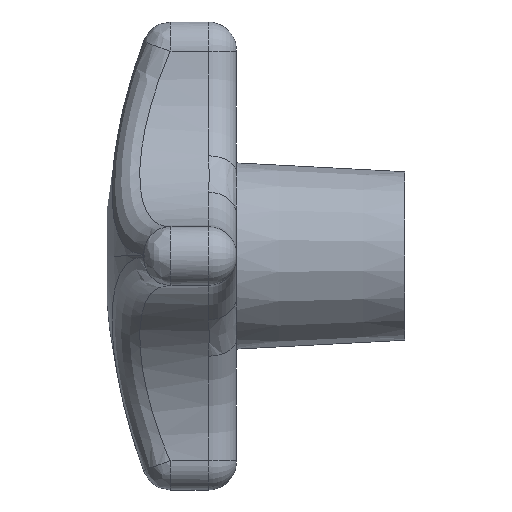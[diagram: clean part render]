
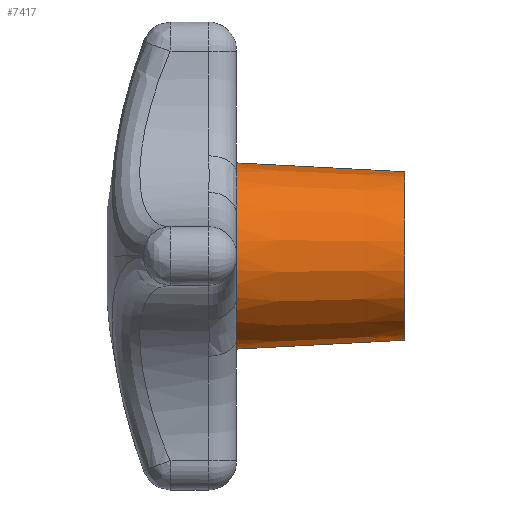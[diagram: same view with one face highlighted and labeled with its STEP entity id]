
A CAD part, left-side view. The second image highlights one B-rep face of the part: STEP entity #7417.
In plain terms, the highlighted conical face has half-angle 3 degrees and reference radius 9 mm.
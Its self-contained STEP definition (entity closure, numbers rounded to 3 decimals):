
#15 = VERTEX_POINT ( 'NONE', #245 ) ;
#245 = CARTESIAN_POINT ( 'NONE',  ( -8.912, 0., 4.41 ) ) ;
#486 = EDGE_CURVE ( 'NONE', #487, #6921, #944, .T. ) ;
#487 = VERTEX_POINT ( 'NONE', #939 ) ;
#493 = EDGE_CURVE ( 'NONE', #6637, #506, #932, .T. ) ;
#506 = VERTEX_POINT ( 'NONE', #983 ) ;
#928 = DIRECTION ( 'NONE',  ( 0., 0., 1. ) ) ;
#929 = DIRECTION ( 'NONE',  ( 0., 1., 0. ) ) ;
#930 = CARTESIAN_POINT ( 'NONE',  ( 0., 0., 0. ) ) ;
#931 = AXIS2_PLACEMENT_3D ( 'NONE', #930, #929, #928 ) ;
#932 = CIRCLE ( 'NONE', #931, 9.943 ) ;
#939 = CARTESIAN_POINT ( 'NONE',  ( -4.41, 0., 8.912 ) ) ;
#940 = DIRECTION ( 'NONE',  ( 0., 0., 1. ) ) ;
#941 = DIRECTION ( 'NONE',  ( 0., 1., 0. ) ) ;
#942 = CARTESIAN_POINT ( 'NONE',  ( 0., 0., 0. ) ) ;
#943 = AXIS2_PLACEMENT_3D ( 'NONE', #942, #941, #940 ) ;
#944 = CIRCLE ( 'NONE', #943, 9.943 ) ;
#983 = CARTESIAN_POINT ( 'NONE',  ( -4.41, 0., -8.912 ) ) ;
#1041 = CARTESIAN_POINT ( 'NONE',  ( 0., 0., -9.943 ) ) ;
#1042 = DIRECTION ( 'NONE',  ( 0., 0.999, -0.052 ) ) ;
#1043 = VECTOR ( 'NONE', #1042, 1000. ) ;
#1044 = CARTESIAN_POINT ( 'NONE',  ( 0., -18., -9. ) ) ;
#1045 = LINE ( 'NONE', #1044, #1043 ) ;
#1289 = CARTESIAN_POINT ( 'NONE',  ( 0., 0., 9.943 ) ) ;
#1294 = DIRECTION ( 'NONE',  ( 0., 0.999, 0.052 ) ) ;
#1295 = VECTOR ( 'NONE', #1294, 1000. ) ;
#1296 = CARTESIAN_POINT ( 'NONE',  ( 0., -18., 9. ) ) ;
#1297 = LINE ( 'NONE', #1296, #1295 ) ;
#3710 = CARTESIAN_POINT ( 'NONE',  ( 0., 0., 0. ) ) ;
#3737 = DIRECTION ( 'NONE',  ( 0., 0., 1. ) ) ;
#3738 = DIRECTION ( 'NONE',  ( 0., 1., 0. ) ) ;
#3739 = AXIS2_PLACEMENT_3D ( 'NONE', #3749, #3738, #3737 ) ;
#3741 = CIRCLE ( 'NONE', #3739, 9.943 ) ;
#3744 = DIRECTION ( 'NONE',  ( 0., 0., 1. ) ) ;
#3745 = DIRECTION ( 'NONE',  ( 0., 1., 0. ) ) ;
#3747 = AXIS2_PLACEMENT_3D ( 'NONE', #3710, #3745, #3744 ) ;
#3748 = CIRCLE ( 'NONE', #3747, 9.943 ) ;
#3749 = CARTESIAN_POINT ( 'NONE',  ( 0., 0., 0. ) ) ;
#3876 = CARTESIAN_POINT ( 'NONE',  ( 0., -18., 9. ) ) ;
#3877 = DIRECTION ( 'NONE',  ( 0., 0., 1. ) ) ;
#3878 = DIRECTION ( 'NONE',  ( 0., 1., 0. ) ) ;
#3879 = AXIS2_PLACEMENT_3D ( 'NONE', #3881, #3878, #3877 ) ;
#3880 = CARTESIAN_POINT ( 'NONE',  ( 0., -18., -9. ) ) ;
#3881 = CARTESIAN_POINT ( 'NONE',  ( 0., -18., 0. ) ) ;
#3882 = CONICAL_SURFACE ( 'NONE', #3879, 9., 0.052 ) ;
#3883 = FACE_OUTER_BOUND ( 'NONE', #7418, .T. ) ;
#3889 = DIRECTION ( 'NONE',  ( 0., 0., 1. ) ) ;
#3890 = DIRECTION ( 'NONE',  ( 0., 1., 0. ) ) ;
#3891 = CARTESIAN_POINT ( 'NONE',  ( 0., -18., 0. ) ) ;
#3892 = AXIS2_PLACEMENT_3D ( 'NONE', #3891, #3890, #3889 ) ;
#3896 = CIRCLE ( 'NONE', #3892, 9. ) ;
#3931 = CIRCLE ( 'NONE', #3977, 9.943 ) ;
#3937 = CARTESIAN_POINT ( 'NONE',  ( 0., 0., 0. ) ) ;
#3974 = CARTESIAN_POINT ( 'NONE',  ( -8.912, 0., -4.41 ) ) ;
#3975 = DIRECTION ( 'NONE',  ( 0., 0., 1. ) ) ;
#3976 = DIRECTION ( 'NONE',  ( 0., 1., 0. ) ) ;
#3977 = AXIS2_PLACEMENT_3D ( 'NONE', #3937, #3976, #3975 ) ;
#6636 = EDGE_CURVE ( 'NONE', #7420, #6637, #1045, .T. ) ;
#6637 = VERTEX_POINT ( 'NONE', #1041 ) ;
#6916 = EDGE_CURVE ( 'NONE', #7421, #6921, #1297, .T. ) ;
#6921 = VERTEX_POINT ( 'NONE', #1289 ) ;
#7362 = ORIENTED_EDGE ( 'NONE', *, *, #7363, .F. ) ;
#7363 = EDGE_CURVE ( 'NONE', #506, #7466, #3748, .T. ) ;
#7364 = ORIENTED_EDGE ( 'NONE', *, *, #493, .F. ) ;
#7365 = ORIENTED_EDGE ( 'NONE', *, *, #486, .F. ) ;
#7366 = EDGE_CURVE ( 'NONE', #15, #487, #3741, .T. ) ;
#7370 = ORIENTED_EDGE ( 'NONE', *, *, #7366, .F. ) ;
#7372 = ORIENTED_EDGE ( 'NONE', *, *, #7465, .F. ) ;
#7412 = EDGE_CURVE ( 'NONE', #7420, #7421, #3896, .T. ) ;
#7413 = ORIENTED_EDGE ( 'NONE', *, *, #6916, .T. ) ;
#7414 = ORIENTED_EDGE ( 'NONE', *, *, #6636, .F. ) ;
#7416 = ORIENTED_EDGE ( 'NONE', *, *, #7412, .T. ) ;
#7417 = ADVANCED_FACE ( 'NONE', ( #3883 ), #3882, .T. ) ;
#7418 = EDGE_LOOP ( 'NONE', ( #7414, #7416, #7413, #7365, #7370, #7372, #7362, #7364 ) ) ;
#7420 = VERTEX_POINT ( 'NONE', #3880 ) ;
#7421 = VERTEX_POINT ( 'NONE', #3876 ) ;
#7465 = EDGE_CURVE ( 'NONE', #7466, #15, #3931, .T. ) ;
#7466 = VERTEX_POINT ( 'NONE', #3974 ) ;
